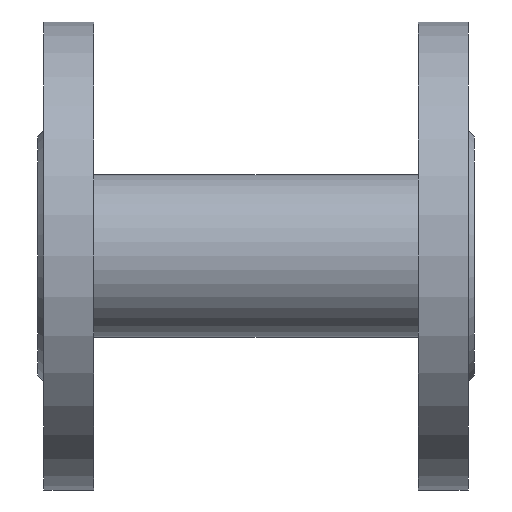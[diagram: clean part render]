
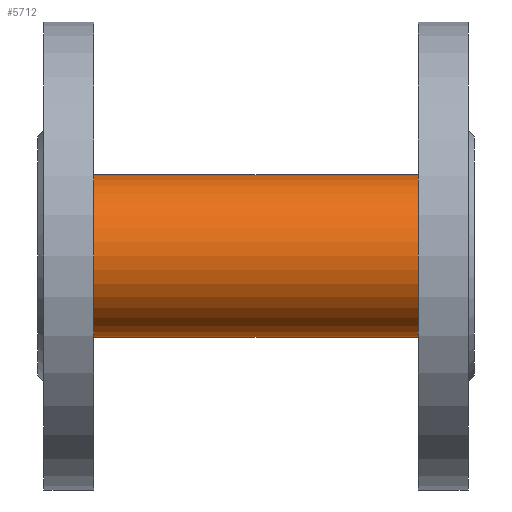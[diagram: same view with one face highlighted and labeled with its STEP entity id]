
A CAD part, front view. The second image highlights one B-rep face of the part: STEP entity #5712.
In plain terms, the highlighted cylindrical face has radius 26 mm (diameter 52 mm), a full revolution.
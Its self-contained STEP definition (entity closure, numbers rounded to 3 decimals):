
#1925=ELLIPSE('',#29376,36.77,26.);
#1926=ELLIPSE('',#29377,36.77,26.);
#1927=ELLIPSE('',#29378,36.77,26.);
#1928=ELLIPSE('',#29379,36.77,26.);
#2152=CYLINDRICAL_SURFACE('',#29382,26.);
#3137=FACE_BOUND('',#9763,.T.);
#3138=FACE_BOUND('',#9764,.T.);
#3139=FACE_BOUND('',#9765,.T.);
#4246=CIRCLE('',#29380,26.);
#4247=CIRCLE('',#29381,26.);
#5712=ADVANCED_FACE('',(#3137,#3138,#3139),#2152,.T.);
#9763=EDGE_LOOP('',(#15333,#15334,#15335,#15336,#15337,#15338));
#9764=EDGE_LOOP('',(#15339));
#9765=EDGE_LOOP('',(#15340));
#15333=ORIENTED_EDGE('',*,*,#22695,.T.);
#15334=ORIENTED_EDGE('',*,*,#22696,.T.);
#15335=ORIENTED_EDGE('',*,*,#22697,.T.);
#15336=ORIENTED_EDGE('',*,*,#22698,.T.);
#15337=ORIENTED_EDGE('',*,*,#22699,.T.);
#15338=ORIENTED_EDGE('',*,*,#22700,.T.);
#15339=ORIENTED_EDGE('',*,*,#22701,.F.);
#15340=ORIENTED_EDGE('',*,*,#22702,.F.);
#19443=VERTEX_POINT('',#47765);
#19444=VERTEX_POINT('',#47766);
#19445=VERTEX_POINT('',#47768);
#19446=VERTEX_POINT('',#47770);
#19447=VERTEX_POINT('',#47772);
#19448=VERTEX_POINT('',#47774);
#19449=VERTEX_POINT('',#47777);
#19450=VERTEX_POINT('',#47779);
#22695=EDGE_CURVE('',#19443,#19444,#1925,.T.);
#22696=EDGE_CURVE('',#19444,#19445,#1926,.T.);
#22697=EDGE_CURVE('',#19445,#19446,#25120,.T.);
#22698=EDGE_CURVE('',#19446,#19447,#1927,.T.);
#22699=EDGE_CURVE('',#19447,#19448,#1928,.T.);
#22700=EDGE_CURVE('',#19448,#19443,#25121,.T.);
#22701=EDGE_CURVE('',#19449,#19449,#4246,.T.);
#22702=EDGE_CURVE('',#19450,#19450,#4247,.T.);
#25120=LINE('',#47769,#27154);
#25121=LINE('',#47775,#27155);
#27154=VECTOR('',#34724,1.);
#27155=VECTOR('',#34729,1.);
#29376=AXIS2_PLACEMENT_3D('',#47764,#34720,#34721);
#29377=AXIS2_PLACEMENT_3D('',#47767,#34722,#34723);
#29378=AXIS2_PLACEMENT_3D('',#47771,#34725,#34726);
#29379=AXIS2_PLACEMENT_3D('',#47773,#34727,#34728);
#29380=AXIS2_PLACEMENT_3D('',#47776,#34730,#34731);
#29381=AXIS2_PLACEMENT_3D('',#47778,#34732,#34733);
#29382=AXIS2_PLACEMENT_3D('',#47780,#34734,#34735);
#34720=DIRECTION('',(-0.707,-0.707,0.));
#34721=DIRECTION('',(-0.707,0.707,0.));
#34722=DIRECTION('',(-0.707,-0.707,0.));
#34723=DIRECTION('',(-0.707,0.707,0.));
#34724=DIRECTION('',(1.,0.,0.));
#34725=DIRECTION('',(0.707,-0.707,0.));
#34726=DIRECTION('',(-0.707,-0.707,0.));
#34727=DIRECTION('',(0.707,-0.707,0.));
#34728=DIRECTION('',(-0.707,-0.707,0.));
#34729=DIRECTION('',(-1.,0.,0.));
#34730=DIRECTION('',(1.,0.,0.));
#34731=DIRECTION('',(0.,0.,1.));
#34732=DIRECTION('',(-1.,0.,0.));
#34733=DIRECTION('',(0.,0.,-1.));
#34734=DIRECTION('',(-1.,0.,0.));
#34735=DIRECTION('',(0.,0.,1.));
#47764=CARTESIAN_POINT('',(45.,-22.49,180.5));
#47765=CARTESIAN_POINT('',(20.,2.51,187.641));
#47766=CARTESIAN_POINT('',(19.,3.51,180.5));
#47767=CARTESIAN_POINT('',(45.,-22.49,180.5));
#47768=CARTESIAN_POINT('',(20.,2.51,173.359));
#47769=CARTESIAN_POINT('',(20.,2.51,173.359));
#47770=CARTESIAN_POINT('',(70.,2.51,173.359));
#47771=CARTESIAN_POINT('',(45.,-22.49,180.5));
#47772=CARTESIAN_POINT('',(71.,3.51,180.5));
#47773=CARTESIAN_POINT('',(45.,-22.49,180.5));
#47774=CARTESIAN_POINT('',(70.,2.51,187.641));
#47775=CARTESIAN_POINT('',(70.,2.51,187.641));
#47776=CARTESIAN_POINT('',(97.,-22.49,180.5));
#47777=CARTESIAN_POINT('',(97.,-22.49,206.5));
#47778=CARTESIAN_POINT('',(-7.,-22.49,180.5));
#47779=CARTESIAN_POINT('',(-7.,-22.49,154.5));
#47780=CARTESIAN_POINT('',(76.,-22.49,180.5));
